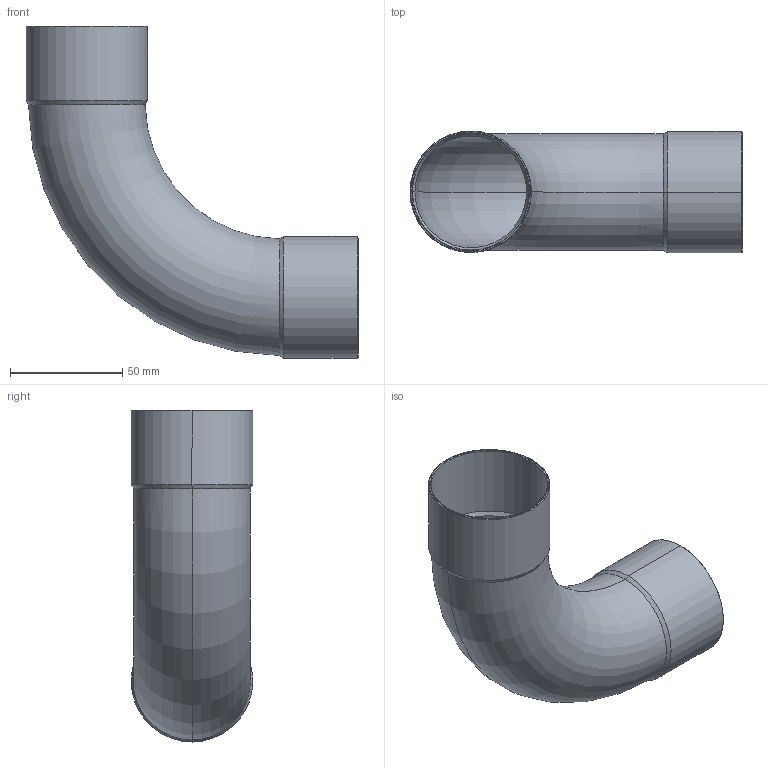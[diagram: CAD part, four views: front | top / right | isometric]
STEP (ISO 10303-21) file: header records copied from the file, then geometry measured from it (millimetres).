
FILE_DESCRIPTION((''),'2;1');
FILE_NAME('D:\5002\15002a52.stp','2005-10-04T11:49:24',('Kris'),(''),'Autodesk Inventor 8','Autodesk Inventor 8','');
FILE_SCHEMA(('AUTOMOTIVE_DESIGN { 1 0 10303 214 1 1 1 1 }'));
Length unit declared in the file: millimetre
Products named in the file (1): 15002a52
Bounding box: 148.1 x 54.2 x 148.1 mm (x, y, z)
Volume: 36592.7 mm3; surface area: 66836.1 mm2
Topology: 1 solids, 1 shells, 30 faces, 60 edges, 32 vertices
Faces by surface type: cone 12, bspline 9, torus 4, cylinder 4, plane 1
Entity records: 1027 total; most frequent: CARTESIAN_POINT 414, DIRECTION 124, ORIENTED_EDGE 120, EDGE_CURVE 60, AXIS2_PLACEMENT_3D 50, VERTEX_POINT 32, EDGE_LOOP 32, FACE_OUTER_BOUND 30
